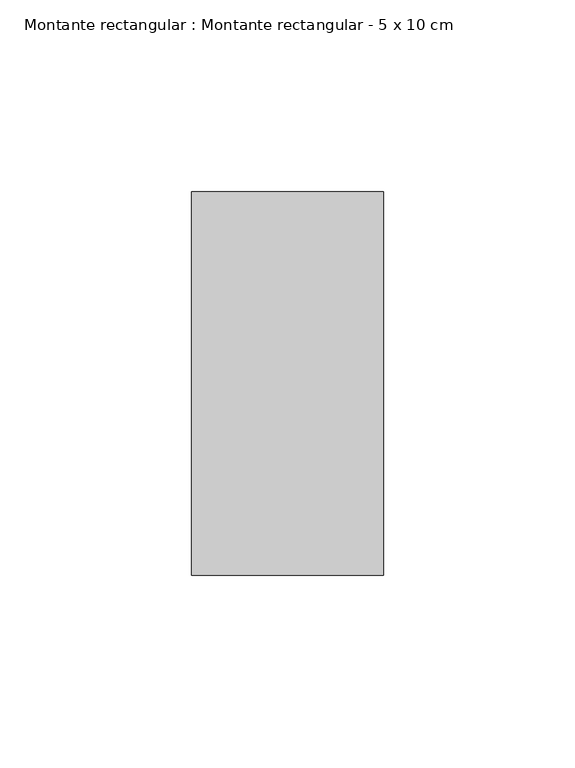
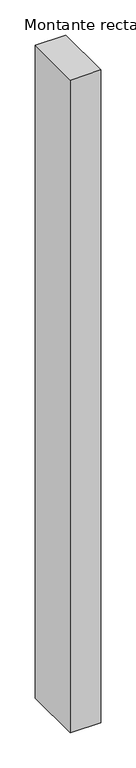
"""IFC4 building model written with IfcOpenShell, lengths in millimetres: member geometry, Montante rectangular : Montante rectangular - 5 x 10 cm."""

from ifc_helpers import new_model, si_unit, frame, origin, place, context, project, spatial, polyline, outline, extrude, source, transform, mapped, element, save


def montante_rectangular_montante_rectangular_5_x_10_cm_195edbcc(model_context):
    return source(origin(), model_context, "Body", "SweptSolid", [
        extrude(outline(polyline([(25.0, 50.0), (25.0, -50.0), (-25.0, -50.0), (-25.0, 50.0), (25.0, 50.0)])), frame((0.0, 0.0, -1135.0), z_axis=(0.0, 0.0, 1.0), x_axis=(1.0, 0.0, 0.0)), (0.0, 0.0, 1.0), 1135.0),
    ])


if __name__ == "__main__":
    model = new_model("IFC4")
    model_context = context("Model", 3, world=origin())
    ifc_project = project(units=[si_unit("LENGTHUNIT", "METRE", prefix="MILLI")], contexts=[model_context])
    site = spatial("IfcSite", under=ifc_project)
    building = spatial("IfcBuilding", under=site)
    placement = place(None, origin())
    montante_rectangular_montante_rectangular_5_x_10_cm_shape = montante_rectangular_montante_rectangular_5_x_10_cm_195edbcc(model_context)
    element("IfcMember", 1, ObjectType="Montante rectangular : Montante rectangular - 5 x 10 cm", at=placement, inside=building, context=model_context, shape_type="MappedRepresentation", body=[
        mapped(montante_rectangular_montante_rectangular_5_x_10_cm_shape, transform((0.0, 0.0, 0.0), x_axis=(1.0, 0.0, 0.0), y_axis=(0.0, 1.0, 0.0), z_axis=(0.0, 0.0, 1.0))),
    ])
    save(model, "model.ifc")
